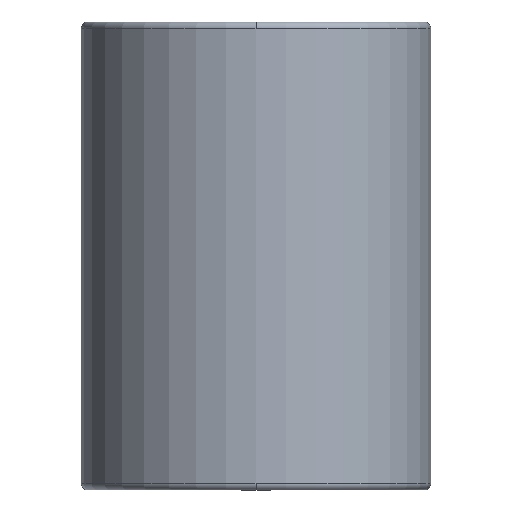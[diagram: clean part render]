
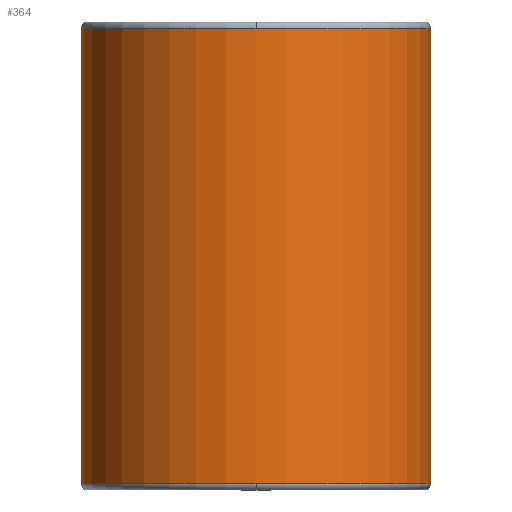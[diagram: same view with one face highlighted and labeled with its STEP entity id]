
A CAD part, front view. The second image highlights one B-rep face of the part: STEP entity #364.
In plain terms, the highlighted cylindrical face has radius 55.992 mm (diameter 111.984 mm), a partial arc.
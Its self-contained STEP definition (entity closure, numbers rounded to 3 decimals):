
#269=CARTESIAN_POINT('',(0.0,-55.992,148.));
#270=VERTEX_POINT('',#269);
#296=CARTESIAN_POINT('',(-55.992,0.,148.));
#297=VERTEX_POINT('',#296);
#305=CARTESIAN_POINT('',(0.0,0.,148.));
#306=DIRECTION('',(0.0,0.0,1.0));
#307=DIRECTION('',(1.0,0.0,0.0));
#308=AXIS2_PLACEMENT_3D('',#305,#306,#307);
#309=CIRCLE('',#308,55.992);
#310=EDGE_CURVE('',#297,#270,#309,.T.);
#315=CARTESIAN_POINT('',(0.0,0.,75.));
#316=DIRECTION('',(0.0,0.,1.0));
#317=DIRECTION('',(1.0,0.0,0.0));
#318=AXIS2_PLACEMENT_3D('',#315,#316,#317);
#319=CYLINDRICAL_SURFACE('',#318,55.992);
#320=CARTESIAN_POINT('',(55.992,0.,148.));
#321=VERTEX_POINT('',#320);
#322=CARTESIAN_POINT('',(55.992,0.,2.));
#323=VERTEX_POINT('',#322);
#324=CARTESIAN_POINT('',(55.992,0.,148.));
#325=DIRECTION('',(0.0,0.0,-1.0));
#326=VECTOR('',#325,146.);
#327=LINE('',#324,#326);
#328=EDGE_CURVE('',#321,#323,#327,.T.);
#329=ORIENTED_EDGE('',*,*,#328,.F.);
#330=CARTESIAN_POINT('',(0.0,0.,148.));
#331=DIRECTION('',(0.0,0.0,1.0));
#332=DIRECTION('',(1.0,0.0,0.0));
#333=AXIS2_PLACEMENT_3D('',#330,#331,#332);
#334=CIRCLE('',#333,55.992);
#335=EDGE_CURVE('',#270,#321,#334,.T.);
#336=ORIENTED_EDGE('',*,*,#335,.F.);
#337=ORIENTED_EDGE('',*,*,#310,.F.);
#338=CARTESIAN_POINT('',(-55.992,0.,2.0));
#339=VERTEX_POINT('',#338);
#340=CARTESIAN_POINT('',(-55.992,0.,148.));
#341=DIRECTION('',(0.0,0.0,-1.0));
#342=VECTOR('',#341,146.);
#343=LINE('',#340,#342);
#344=EDGE_CURVE('',#297,#339,#343,.T.);
#345=ORIENTED_EDGE('',*,*,#344,.T.);
#346=CARTESIAN_POINT('',(0.0,-55.992,2.));
#347=VERTEX_POINT('',#346);
#348=CARTESIAN_POINT('',(0.0,0.,2.0));
#349=DIRECTION('',(0.0,0.0,1.0));
#350=DIRECTION('',(1.0,0.0,0.0));
#351=AXIS2_PLACEMENT_3D('',#348,#349,#350);
#352=CIRCLE('',#351,55.992);
#353=EDGE_CURVE('',#339,#347,#352,.T.);
#354=ORIENTED_EDGE('',*,*,#353,.T.);
#355=CARTESIAN_POINT('',(0.0,0.,2.0));
#356=DIRECTION('',(0.0,0.0,1.0));
#357=DIRECTION('',(1.0,0.0,0.0));
#358=AXIS2_PLACEMENT_3D('',#355,#356,#357);
#359=CIRCLE('',#358,55.992);
#360=EDGE_CURVE('',#347,#323,#359,.T.);
#361=ORIENTED_EDGE('',*,*,#360,.T.);
#362=EDGE_LOOP('',(#329,#336,#337,#345,#354,#361));
#363=FACE_OUTER_BOUND('',#362,.T.);
#364=ADVANCED_FACE('',(#363),#319,.T.);
